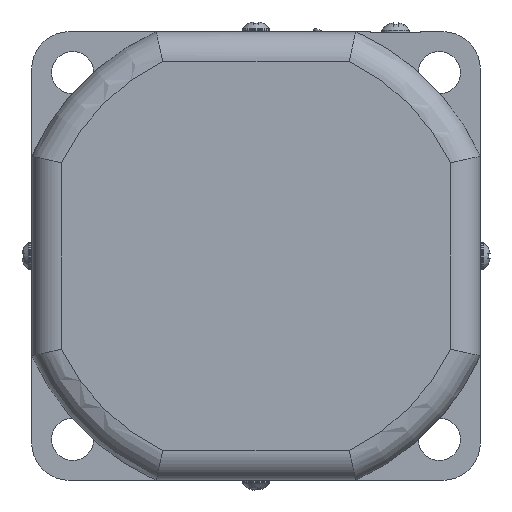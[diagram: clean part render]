
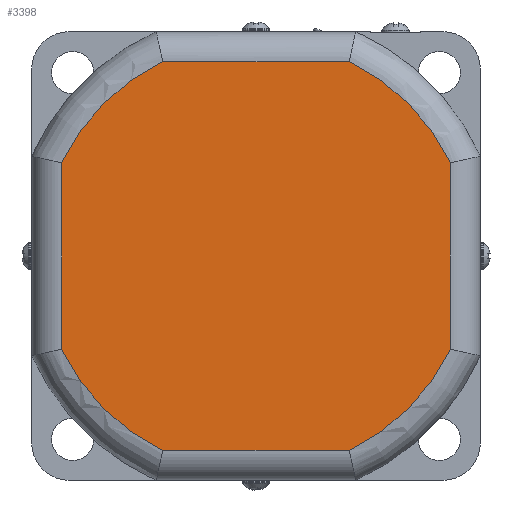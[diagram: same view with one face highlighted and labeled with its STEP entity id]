
A CAD part, left-side view. The second image highlights one B-rep face of the part: STEP entity #3398.
In plain terms, the highlighted planar face has unit normal (-1, 0, 0).
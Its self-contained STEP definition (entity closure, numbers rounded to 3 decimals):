
#348=FACE_OUTER_BOUND('',#573,.T.);
#573=EDGE_LOOP('',(#2593,#2594,#2595,#2596,#2597,#2598,#2599,#2600));
#761=CIRCLE('',#3650,43.25);
#762=CIRCLE('',#3654,43.25);
#765=CIRCLE('',#3658,43.25);
#766=CIRCLE('',#3662,43.25);
#970=LINE('',#5546,#1212);
#973=LINE('',#5566,#1215);
#974=LINE('',#5619,#1216);
#975=LINE('',#5636,#1217);
#1212=VECTOR('',#4268,37.393);
#1215=VECTOR('',#4273,37.393);
#1216=VECTOR('',#4288,37.393);
#1217=VECTOR('',#4291,37.393);
#1486=VERTEX_POINT('',#5496);
#1488=VERTEX_POINT('',#5513);
#1490=VERTEX_POINT('',#5531);
#1492=VERTEX_POINT('',#5550);
#1493=VERTEX_POINT('',#5568);
#1494=VERTEX_POINT('',#5586);
#1495=VERTEX_POINT('',#5604);
#1496=VERTEX_POINT('',#5621);
#1879=EDGE_CURVE('',#1488,#1486,#761,.T.);
#1881=EDGE_CURVE('',#1490,#1488,#970,.T.);
#1885=EDGE_CURVE('',#1486,#1492,#973,.T.);
#1887=EDGE_CURVE('',#1493,#1490,#762,.T.);
#1891=EDGE_CURVE('',#1492,#1494,#765,.T.);
#1893=EDGE_CURVE('',#1495,#1493,#974,.T.);
#1895=EDGE_CURVE('',#1494,#1496,#975,.T.);
#1896=EDGE_CURVE('',#1496,#1495,#766,.T.);
#2593=ORIENTED_EDGE('',*,*,#1895,.F.);
#2594=ORIENTED_EDGE('',*,*,#1891,.F.);
#2595=ORIENTED_EDGE('',*,*,#1885,.F.);
#2596=ORIENTED_EDGE('',*,*,#1879,.F.);
#2597=ORIENTED_EDGE('',*,*,#1881,.F.);
#2598=ORIENTED_EDGE('',*,*,#1887,.F.);
#2599=ORIENTED_EDGE('',*,*,#1893,.F.);
#2600=ORIENTED_EDGE('',*,*,#1896,.F.);
#3043=PLANE('',#3664);
#3398=ADVANCED_FACE('',(#348),#3043,.F.);
#3650=AXIS2_PLACEMENT_3D('',#5528,#4264,#4265);
#3654=AXIS2_PLACEMENT_3D('',#5583,#4276,#4277);
#3658=AXIS2_PLACEMENT_3D('',#5602,#4284,#4285);
#3662=AXIS2_PLACEMENT_3D('',#5638,#4294,#4295);
#3664=AXIS2_PLACEMENT_3D('',#5640,#4298,#4299);
#4264=DIRECTION('center_axis',(1.,0.,0.));
#4265=DIRECTION('ref_axis',(0.,0.707,-0.707));
#4268=DIRECTION('',(0.,1.,0.));
#4273=DIRECTION('',(0.,0.,1.));
#4276=DIRECTION('center_axis',(1.,0.,0.));
#4277=DIRECTION('ref_axis',(0.,-0.707,-0.707));
#4284=DIRECTION('center_axis',(1.,0.,0.));
#4285=DIRECTION('ref_axis',(0.,0.707,0.707));
#4288=DIRECTION('',(0.,0.,-1.));
#4291=DIRECTION('',(0.,-1.,0.));
#4294=DIRECTION('center_axis',(1.,0.,0.));
#4295=DIRECTION('ref_axis',(0.,-0.707,0.707));
#4298=DIRECTION('center_axis',(1.,0.,0.));
#4299=DIRECTION('ref_axis',(0.,1.,0.));
#5496=CARTESIAN_POINT('',(-17.8,39.,-18.697));
#5513=CARTESIAN_POINT('',(-17.8,18.697,-39.));
#5528=CARTESIAN_POINT('Origin',(-17.8,0.,
0.));
#5531=CARTESIAN_POINT('',(-17.8,-18.697,-39.));
#5546=CARTESIAN_POINT('',(-17.8,-18.697,-39.));
#5550=CARTESIAN_POINT('',(-17.8,39.,18.697));
#5566=CARTESIAN_POINT('',(-17.8,39.,-18.697));
#5568=CARTESIAN_POINT('',(-17.8,-39.,-18.697));
#5583=CARTESIAN_POINT('Origin',(-17.8,0.,
0.));
#5586=CARTESIAN_POINT('',(-17.8,18.697,39.));
#5602=CARTESIAN_POINT('Origin',(-17.8,0.,
0.));
#5604=CARTESIAN_POINT('',(-17.8,-39.,18.697));
#5619=CARTESIAN_POINT('',(-17.8,-39.,18.697));
#5621=CARTESIAN_POINT('',(-17.8,-18.697,39.));
#5636=CARTESIAN_POINT('',(-17.8,18.697,39.));
#5638=CARTESIAN_POINT('Origin',(-17.8,0.,
0.));
#5640=CARTESIAN_POINT('Origin',(-17.8,0.,
0.));
